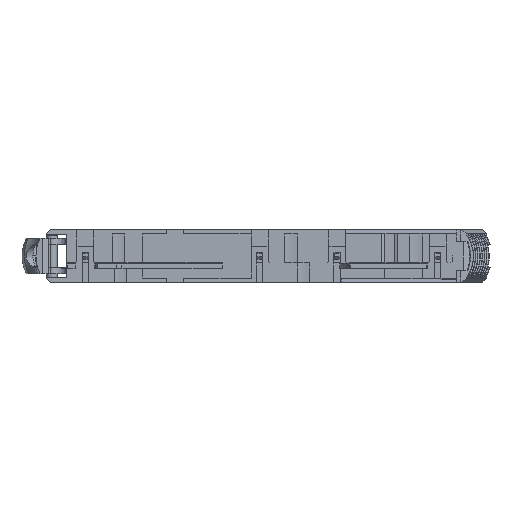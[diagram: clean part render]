
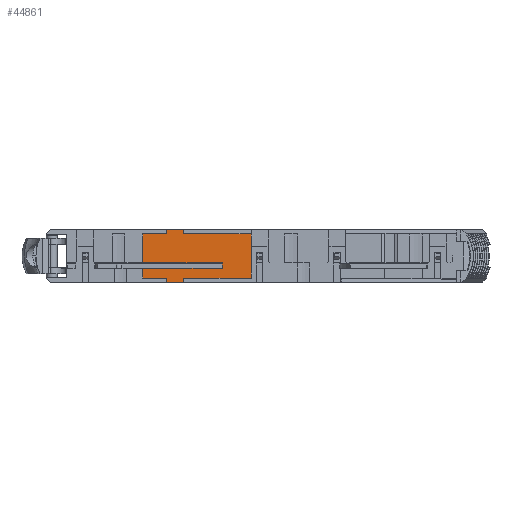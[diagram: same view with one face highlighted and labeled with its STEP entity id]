
A CAD part, front view. The second image highlights one B-rep face of the part: STEP entity #44861.
In plain terms, the highlighted planar face has unit normal (0, -1, 0).
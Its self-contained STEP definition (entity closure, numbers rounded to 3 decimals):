
#449=DIRECTION('',(0.,0.,1.));
#450=VECTOR('',#449,10.5);
#451=CARTESIAN_POINT('',(44.05,2.,-11.5));
#452=LINE('',#451,#450);
#618=DIRECTION('',(1.,0.,0.));
#619=VECTOR('',#618,4.);
#620=CARTESIAN_POINT('',(23.95,2.,-12.5));
#621=LINE('',#620,#619);
#6042=DIRECTION('',(-1.,0.,0.));
#6043=VECTOR('',#6042,16.1);
#6044=CARTESIAN_POINT('',(44.05,2.,-11.5));
#6045=LINE('',#6044,#6043);
#6049=DIRECTION('',(0.,0.,1.));
#6050=VECTOR('',#6049,1.);
#6051=CARTESIAN_POINT('',(23.95,2.,-12.5));
#6052=LINE('',#6051,#6050);
#6056=DIRECTION('',(-1.,0.,0.));
#6057=VECTOR('',#6056,5.8);
#6058=CARTESIAN_POINT('',(23.95,2.,-11.5));
#6059=LINE('',#6058,#6057);
#6063=DIRECTION('',(0.,0.,1.));
#6064=VECTOR('',#6063,2.35);
#6065=CARTESIAN_POINT('',(18.15,2.,-11.5));
#6066=LINE('',#6065,#6064);
#6070=DIRECTION('',(0.017,0.,1.));
#6071=VECTOR('',#6070,1.25);
#6072=CARTESIAN_POINT('',(37.137,2.,-9.15));
#6073=LINE('',#6072,#6071);
#6077=DIRECTION('',(-1.,0.,0.));
#6078=VECTOR('',#6077,19.009);
#6079=CARTESIAN_POINT('',(37.159,2.,-7.9));
#6080=LINE('',#6079,#6078);
#6084=DIRECTION('',(0.,0.,1.));
#6085=VECTOR('',#6084,6.9);
#6086=CARTESIAN_POINT('',(18.15,2.,-7.9));
#6087=LINE('',#6086,#6085);
#6091=DIRECTION('',(0.,0.,-1.));
#6092=VECTOR('',#6091,1.);
#6093=CARTESIAN_POINT('',(27.95,2.,0.));
#6094=LINE('',#6093,#6092);
#6105=DIRECTION('',(0.,0.,1.));
#6106=VECTOR('',#6105,1.);
#6107=CARTESIAN_POINT('',(27.95,2.,-12.5));
#6108=LINE('',#6107,#6106);
#6163=DIRECTION('',(-1.,0.,0.));
#6164=VECTOR('',#6163,18.987);
#6165=CARTESIAN_POINT('',(37.137,2.,-9.15));
#6166=LINE('',#6165,#6164);
#6991=DIRECTION('',(-1.,0.,0.));
#6992=VECTOR('',#6991,4.);
#6993=CARTESIAN_POINT('',(27.95,2.,0.));
#6994=LINE('',#6993,#6992);
#31859=DIRECTION('',(-1.,0.,0.));
#31860=VECTOR('',#31859,16.1);
#31861=CARTESIAN_POINT('',(44.05,2.,-1.));
#31862=LINE('',#31861,#31860);
#31901=DIRECTION('',(0.,0.,-1.));
#31902=VECTOR('',#31901,1.);
#31903=CARTESIAN_POINT('',(23.95,2.,0.));
#31904=LINE('',#31903,#31902);
#31922=DIRECTION('',(-1.,0.,0.));
#31923=VECTOR('',#31922,5.8);
#31924=CARTESIAN_POINT('',(23.95,2.,-1.));
#31925=LINE('',#31924,#31923);
#35696=CARTESIAN_POINT('',(27.95,2.,0.));
#35697=VERTEX_POINT('',#35696);
#35698=CARTESIAN_POINT('',(23.95,2.,0.));
#35699=VERTEX_POINT('',#35698);
#36861=CARTESIAN_POINT('',(23.95,2.,-1.));
#36863=VERTEX_POINT('',#36861);
#36865=CARTESIAN_POINT('',(18.15,2.,-1.));
#36866=VERTEX_POINT('',#36865);
#36873=CARTESIAN_POINT('',(44.05,2.,-1.));
#36874=VERTEX_POINT('',#36873);
#36875=CARTESIAN_POINT('',(27.95,2.,-1.));
#36876=VERTEX_POINT('',#36875);
#36926=CARTESIAN_POINT('',(18.15,2.,-7.9));
#36927=VERTEX_POINT('',#36926);
#38053=CARTESIAN_POINT('',(37.137,2.,-9.15));
#38054=VERTEX_POINT('',#38053);
#38055=CARTESIAN_POINT('',(18.15,2.,-9.15));
#38056=VERTEX_POINT('',#38055);
#38357=CARTESIAN_POINT('',(18.15,2.,-11.5));
#38358=VERTEX_POINT('',#38357);
#38359=CARTESIAN_POINT('',(23.95,2.,-11.5));
#38360=VERTEX_POINT('',#38359);
#38361=CARTESIAN_POINT('',(44.05,2.,-11.5));
#38362=CARTESIAN_POINT('',(27.95,2.,-11.5));
#38363=VERTEX_POINT('',#38361);
#38364=VERTEX_POINT('',#38362);
#38918=CARTESIAN_POINT('',(23.95,2.,-12.5));
#38919=VERTEX_POINT('',#38918);
#38920=CARTESIAN_POINT('',(27.95,2.,-12.5));
#38921=VERTEX_POINT('',#38920);
#40451=CARTESIAN_POINT('',(37.159,2.,-7.9));
#40453=VERTEX_POINT('',#40451);
#44826=CARTESIAN_POINT('',(18.15,2.,0.));
#44827=DIRECTION('',(0.,-1.,0.));
#44828=DIRECTION('',(1.,0.,0.));
#44829=AXIS2_PLACEMENT_3D('',#44826,#44827,#44828);
#44830=PLANE('',#44829);
#44831=ORIENTED_EDGE('',*,*,#40853,.F.);
#44833=ORIENTED_EDGE('',*,*,#44832,.T.);
#44835=ORIENTED_EDGE('',*,*,#44834,.F.);
#44836=ORIENTED_EDGE('',*,*,#40988,.F.);
#44838=ORIENTED_EDGE('',*,*,#44837,.T.);
#44840=ORIENTED_EDGE('',*,*,#44839,.T.);
#44842=ORIENTED_EDGE('',*,*,#44841,.T.);
#44844=ORIENTED_EDGE('',*,*,#44843,.F.);
#44845=ORIENTED_EDGE('',*,*,#44817,.T.);
#44846=ORIENTED_EDGE('',*,*,#44806,.T.);
#44848=ORIENTED_EDGE('',*,*,#44847,.T.);
#44850=ORIENTED_EDGE('',*,*,#44849,.F.);
#44852=ORIENTED_EDGE('',*,*,#44851,.F.);
#44854=ORIENTED_EDGE('',*,*,#44853,.F.);
#44856=ORIENTED_EDGE('',*,*,#44855,.T.);
#44858=ORIENTED_EDGE('',*,*,#44857,.F.);
#44859=EDGE_LOOP('',(#44831,#44833,#44835,#44836,#44838,#44840,#44842,#44844,
#44845,#44846,#44848,#44850,#44852,#44854,#44856,#44858));
#44860=FACE_OUTER_BOUND('',#44859,.F.);
#40853=EDGE_CURVE('',#38363,#36874,#452,.T.);
#40988=EDGE_CURVE('',#38919,#38921,#621,.T.);
#44806=EDGE_CURVE('',#40453,#36927,#6080,.T.);
#44817=EDGE_CURVE('',#38054,#40453,#6073,.T.);
#44832=EDGE_CURVE('',#38363,#38364,#6045,.T.);
#44834=EDGE_CURVE('',#38921,#38364,#6108,.T.);
#44837=EDGE_CURVE('',#38919,#38360,#6052,.T.);
#44839=EDGE_CURVE('',#38360,#38358,#6059,.T.);
#44841=EDGE_CURVE('',#38358,#38056,#6066,.T.);
#44843=EDGE_CURVE('',#38054,#38056,#6166,.T.);
#44847=EDGE_CURVE('',#36927,#36866,#6087,.T.);
#44849=EDGE_CURVE('',#36863,#36866,#31925,.T.);
#44851=EDGE_CURVE('',#35699,#36863,#31904,.T.);
#44853=EDGE_CURVE('',#35697,#35699,#6994,.T.);
#44855=EDGE_CURVE('',#35697,#36876,#6094,.T.);
#44857=EDGE_CURVE('',#36874,#36876,#31862,.T.);
#44861=ADVANCED_FACE('',(#44860),#44830,.T.);
